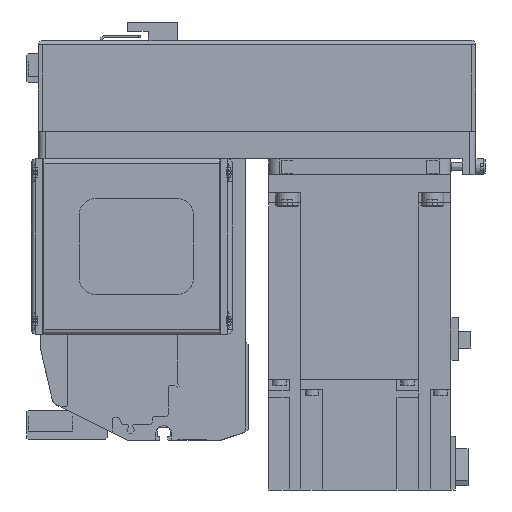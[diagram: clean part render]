
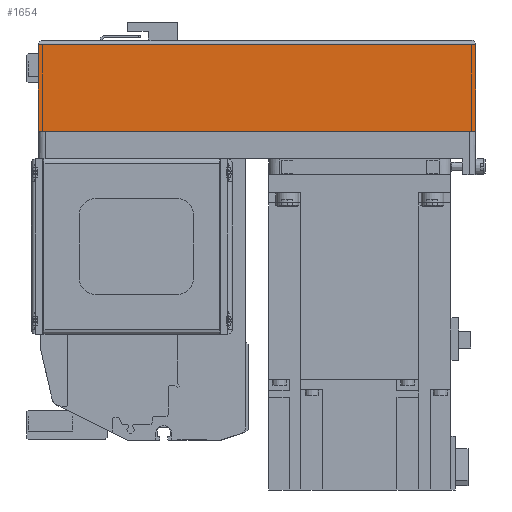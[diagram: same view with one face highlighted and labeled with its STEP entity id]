
A CAD part, left-side view. The second image highlights one B-rep face of the part: STEP entity #1654.
In plain terms, the highlighted planar face has unit normal (-1, 0, 0) as drawn and (0, -1, 0) by its records, which use the part's own axes.
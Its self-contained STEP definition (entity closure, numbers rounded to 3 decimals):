
#1654 = ADVANCED_FACE( '', ( #4232 ), #4233, .T. );
#4232 = FACE_OUTER_BOUND( '', #8098, .T. );
#4233 = PLANE( '', #8099 );
#8098 = EDGE_LOOP( '', ( #12844, #12845, #12846, #12847 ) );
#8099 = AXIS2_PLACEMENT_3D( '', #12848, #12849, #12850 );
#12844 = ORIENTED_EDGE( '', *, *, #22392, .F. );
#12845 = ORIENTED_EDGE( '', *, *, #22393, .F. );
#12846 = ORIENTED_EDGE( '', *, *, #22394, .T. );
#12847 = ORIENTED_EDGE( '', *, *, #21604, .T. );
#12848 = CARTESIAN_POINT( '', ( -192., -40., -12.1 ) );
#12849 = DIRECTION( '', ( 0., -1., 0. ) );
#12850 = DIRECTION( '', ( 0., 0., -1. ) );
#21604 = EDGE_CURVE( '', #25586, #25590, #25592, .T. );
#22392 = EDGE_CURVE( '', #26971, #25590, #26972, .T. );
#22393 = EDGE_CURVE( '', #26973, #26971, #26974, .T. );
#22394 = EDGE_CURVE( '', #26973, #25586, #26975, .T. );
#25586 = VERTEX_POINT( '', #31537 );
#25590 = VERTEX_POINT( '', #31542 );
#25592 = LINE( '', #31544, #31545 );
#26971 = VERTEX_POINT( '', #33637 );
#26972 = LINE( '', #33638, #33639 );
#26973 = VERTEX_POINT( '', #33640 );
#26974 = LINE( '', #33641, #33642 );
#26975 = LINE( '', #33643, #33644 );
#31537 = CARTESIAN_POINT( '', ( -192., -40., -50. ) );
#31542 = CARTESIAN_POINT( '', ( 0., -40., -50. ) );
#31544 = CARTESIAN_POINT( '', ( -192., -40., -50. ) );
#31545 = VECTOR( '', #40625, 1000. );
#33637 = CARTESIAN_POINT( '', ( 0., -40., -12.1 ) );
#33638 = CARTESIAN_POINT( '', ( 0., -40., -12.1 ) );
#33639 = VECTOR( '', #41628, 1000. );
#33640 = CARTESIAN_POINT( '', ( -192., -40., -12.1 ) );
#33641 = CARTESIAN_POINT( '', ( -192., -40., -12.1 ) );
#33642 = VECTOR( '', #41629, 1000. );
#33643 = CARTESIAN_POINT( '', ( -192., -40., -12.1 ) );
#33644 = VECTOR( '', #41630, 1000. );
#40625 = DIRECTION( '', ( 1., 0., 0. ) );
#41628 = DIRECTION( '', ( 0., 0., -1. ) );
#41629 = DIRECTION( '', ( 1., 0., 0. ) );
#41630 = DIRECTION( '', ( 0., 0., -1. ) );
